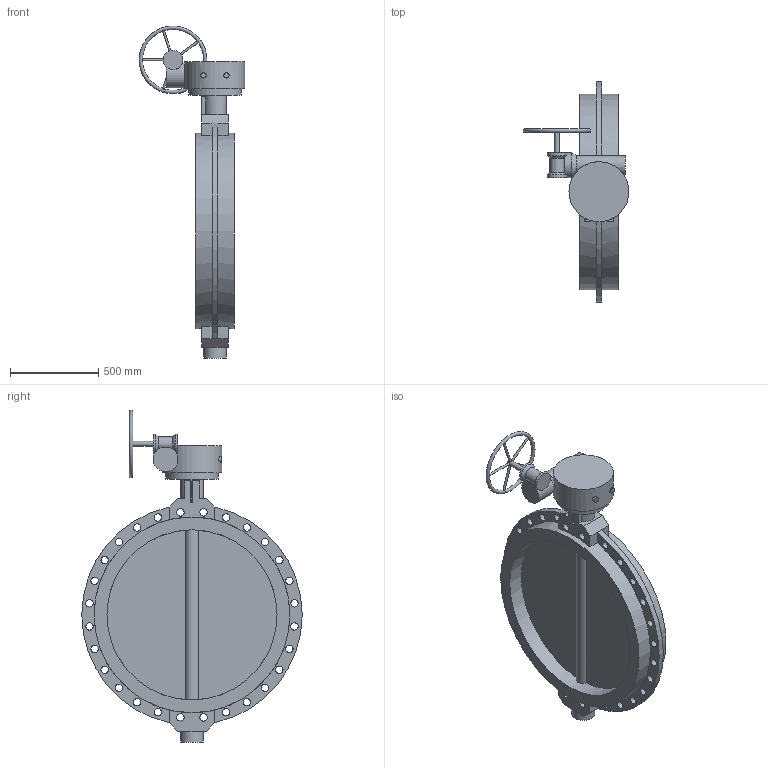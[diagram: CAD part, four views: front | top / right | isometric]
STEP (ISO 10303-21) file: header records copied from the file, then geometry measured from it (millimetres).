
FILE_DESCRIPTION(('STEP AP203'), '1');
FILE_NAME('青蜮铕 017W.ZS DN1000 PN16 疱潴牝铕', '', ('UNSPECIFIED'), ('UNSPECIFIED'), 'ASCON STEP Converter 1.6', 'ASCON Math Kernel', '');
FILE_SCHEMA(('CONFIG_CONTROL_DESIGN'));
Length unit declared in the file: millimetre
Bounding box: 600.47 x 1250 x 1882.98 mm (x, y, z)
Volume: 112290126.9 mm3; surface area: 4712036.2 mm2
Topology: 1 solids, 1 shells, 746 faces, 2086 edges, 1387 vertices
Faces by surface type: cylinder 551, plane 191, cone 3, torus 1
Full cylindrical faces by diameter (mm): 12 x5, 14 x8, 18 x8, 28 x1, 30 x2, 42 x28, 110 x3, 130 x2, 140 x1, 300 x1, 340 x1, 965 x2, 1110 x2
Entity records: 33214 total; most frequent: CARTESIAN_POINT 7092, DIRECTION 4587, ORIENTED_EDGE 4036, EDGE_CURVE 2018, AXIS2_PLACEMENT_3D 1850, VERTEX_POINT 1386, CIRCLE 1103, EDGE_LOOP 922
